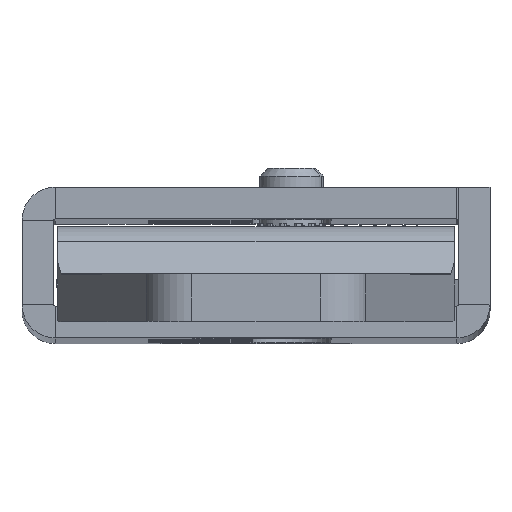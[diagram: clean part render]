
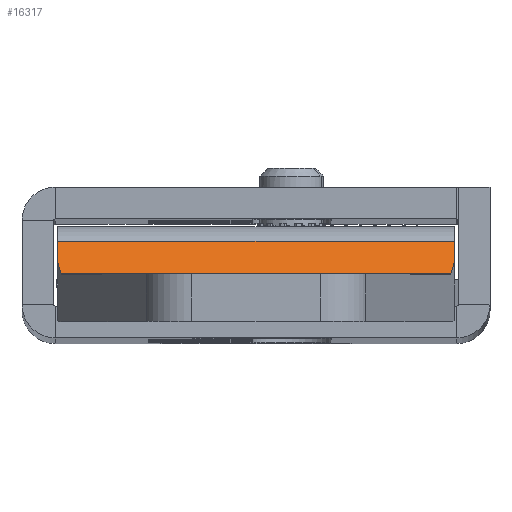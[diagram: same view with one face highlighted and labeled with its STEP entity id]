
A CAD part, top view. The second image highlights one B-rep face of the part: STEP entity #16317.
In plain terms, the highlighted planar face has unit normal (0, 0.707, 0.707) as drawn and (0, -0.707, -0.707) by its records, which use the part's own axes.
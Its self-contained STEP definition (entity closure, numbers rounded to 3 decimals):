
#448 = ORIENTED_EDGE ( 'NONE', *, *, #14291, .F. ) ;
#792 = EDGE_CURVE ( 'NONE', #4071, #8972, #20701, .T. ) ;
#1454 = EDGE_CURVE ( 'NONE', #4089, #3047, #15156, .T. ) ;
#1633 = VECTOR ( 'NONE', #11071, 1000. ) ;
#1696 = DIRECTION ( 'NONE',  ( -1., 0., 0. ) ) ;
#1813 = DIRECTION ( 'NONE',  ( 0., 0.707, 0.707 ) ) ;
#1819 = VECTOR ( 'NONE', #18495, 1000. ) ;
#1830 = CARTESIAN_POINT ( 'NONE',  ( -12.5, 50.324, -137.239 ) ) ;
#1843 = VECTOR ( 'NONE', #1696, 1000. ) ;
#2689 = CARTESIAN_POINT ( 'NONE',  ( -12.5, -89.886, 2.971 ) ) ;
#3047 = VERTEX_POINT ( 'NONE', #17014 ) ;
#3515 = DIRECTION ( 'NONE',  ( 0., -0.707, 0.707 ) ) ;
#3781 = CARTESIAN_POINT ( 'NONE',  ( 12.5, -89.178, 2.263 ) ) ;
#4034 = EDGE_LOOP ( 'NONE', ( #448, #8095, #17680, #14285, #8320, #18366 ) ) ;
#4071 = VERTEX_POINT ( 'NONE', #20607 ) ;
#4089 = VERTEX_POINT ( 'NONE', #5541 ) ;
#4354 = DIRECTION ( 'NONE',  ( -1., 0., 0. ) ) ;
#5147 = CARTESIAN_POINT ( 'NONE',  ( -8.1, -103.132, 16.217 ) ) ;
#5541 = CARTESIAN_POINT ( 'NONE',  ( 12.5, -87.823, 0.908 ) ) ;
#6314 = VERTEX_POINT ( 'NONE', #12725 ) ;
#7361 = VECTOR ( 'NONE', #4354, 1000. ) ;
#8095 = ORIENTED_EDGE ( 'NONE', *, *, #9750, .F. ) ;
#8130 = CARTESIAN_POINT ( 'NONE',  ( -12.5, -87.823, 0.908 ) ) ;
#8320 = ORIENTED_EDGE ( 'NONE', *, *, #11415, .F. ) ;
#8972 = VERTEX_POINT ( 'NONE', #18485 ) ;
#9384 = CARTESIAN_POINT ( 'NONE',  ( 6.916, -106.886, 19.971 ) ) ;
#9750 = EDGE_CURVE ( 'NONE', #3047, #6314, #17371, .T. ) ;
#10192 = EDGE_CURVE ( 'NONE', #16452, #4089, #19450, .T. ) ;
#11071 = DIRECTION ( 'NONE',  ( 0.218, 0.69, -0.69 ) ) ;
#11415 = EDGE_CURVE ( 'NONE', #4071, #16452, #19947, .T. ) ;
#11817 = PLANE ( 'NONE',  #13637 ) ;
#12725 = CARTESIAN_POINT ( 'NONE',  ( -12.5, -89.178, 2.263 ) ) ;
#13471 = DIRECTION ( 'NONE',  ( 1., 0., 0. ) ) ;
#13637 = AXIS2_PLACEMENT_3D ( 'NONE', #18383, #1813, #13471 ) ;
#14285 = ORIENTED_EDGE ( 'NONE', *, *, #10192, .F. ) ;
#14291 = EDGE_CURVE ( 'NONE', #6314, #8972, #19082, .T. ) ;
#14462 = VECTOR ( 'NONE', #19412, 1000. ) ;
#15156 = LINE ( 'NONE', #8130, #1843 ) ;
#15332 = FACE_OUTER_BOUND ( 'NONE', #4034, .T. ) ;
#16311 = VECTOR ( 'NONE', #3515, 1000. ) ;
#16317 = ADVANCED_FACE ( 'NONE', ( #15332 ), #11817, .F. ) ;
#16452 = VERTEX_POINT ( 'NONE', #3781 ) ;
#17014 = CARTESIAN_POINT ( 'NONE',  ( -12.5, -87.823, 0.908 ) ) ;
#17371 = LINE ( 'NONE', #1830, #16311 ) ;
#17680 = ORIENTED_EDGE ( 'NONE', *, *, #1454, .F. ) ;
#17713 = CARTESIAN_POINT ( 'NONE',  ( 12.5, 50.324, -137.239 ) ) ;
#18366 = ORIENTED_EDGE ( 'NONE', *, *, #792, .T. ) ;
#18383 = CARTESIAN_POINT ( 'NONE',  ( -12.5, -103.825, 16.91 ) ) ;
#18485 = CARTESIAN_POINT ( 'NONE',  ( -12.277, -89.886, 2.971 ) ) ;
#18495 = DIRECTION ( 'NONE',  ( 0.218, -0.69, 0.69 ) ) ;
#19082 = LINE ( 'NONE', #5147, #1819 ) ;
#19412 = DIRECTION ( 'NONE',  ( 0., 0.707, -0.707 ) ) ;
#19450 = LINE ( 'NONE', #17713, #14462 ) ;
#19947 = LINE ( 'NONE', #9384, #1633 ) ;
#20607 = CARTESIAN_POINT ( 'NONE',  ( 12.277, -89.886, 2.971 ) ) ;
#20701 = LINE ( 'NONE', #2689, #7361 ) ;
